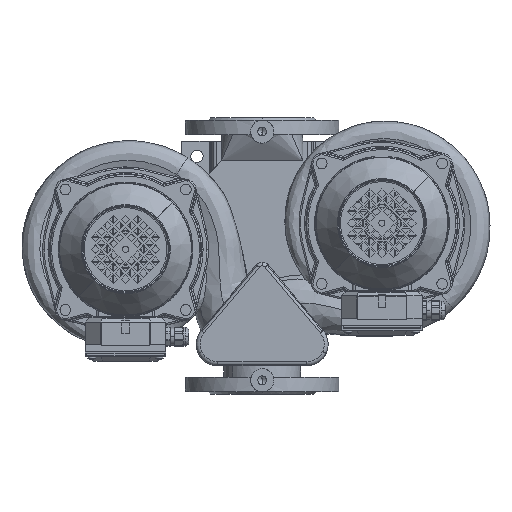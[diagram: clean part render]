
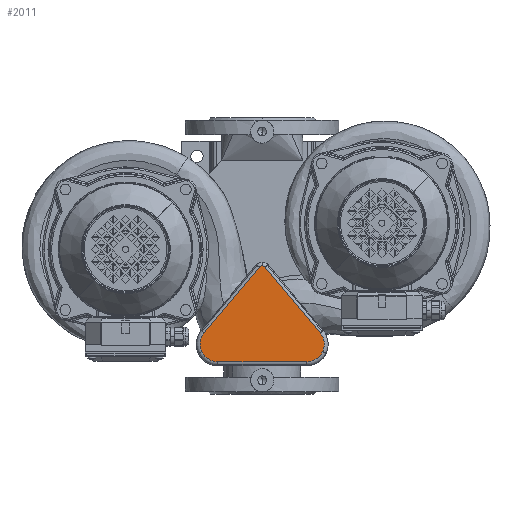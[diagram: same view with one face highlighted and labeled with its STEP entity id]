
A CAD part, top view. The second image highlights one B-rep face of the part: STEP entity #2011.
In plain terms, the highlighted planar face has unit normal (0, 0, 1).
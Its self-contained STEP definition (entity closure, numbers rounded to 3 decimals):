
#2011=ADVANCED_FACE('',(#3974),#3975,.T.);
#3974=FACE_OUTER_BOUND('',#8623,.T.);
#3975=PLANE('',#8624);
#8623=EDGE_LOOP('',(#19164,#19165,#19166,#19167,#19168,#19169,#19170,#19171,#19172));
#8624=AXIS2_PLACEMENT_3D('',#19173,#19174,#19175);
#19164=ORIENTED_EDGE('',*,*,#35521,.F.);
#19165=ORIENTED_EDGE('',*,*,#35515,.F.);
#19166=ORIENTED_EDGE('',*,*,#35529,.F.);
#19167=ORIENTED_EDGE('',*,*,#35511,.F.);
#19168=ORIENTED_EDGE('',*,*,#35505,.F.);
#19169=ORIENTED_EDGE('',*,*,#35535,.F.);
#19170=ORIENTED_EDGE('',*,*,#35501,.F.);
#19171=ORIENTED_EDGE('',*,*,#35495,.F.);
#19172=ORIENTED_EDGE('',*,*,#35540,.F.);
#19173=CARTESIAN_POINT('',(-57.895,143.0,50.0));
#19174=DIRECTION('',(0.0,0.0,1.0));
#19175=DIRECTION('',(1.0,0.0,0.0));
#35495=EDGE_CURVE('',#54474,#54477,#54478,.T.);
#35501=EDGE_CURVE('',#54477,#54487,#54488,.T.);
#35505=EDGE_CURVE('',#54491,#54494,#54495,.T.);
#35511=EDGE_CURVE('',#54494,#54504,#54505,.T.);
#35515=EDGE_CURVE('',#54508,#54511,#54512,.T.);
#35521=EDGE_CURVE('',#54511,#54521,#54522,.T.);
#35529=EDGE_CURVE('',#54504,#54508,#54532,.T.);
#35535=EDGE_CURVE('',#54487,#54491,#54539,.T.);
#35540=EDGE_CURVE('',#54521,#54474,#54544,.T.);
#54474=VERTEX_POINT('',#62109);
#54477=VERTEX_POINT('',#62112);
#54478=CIRCLE('',#62113,23.0);
#54487=VERTEX_POINT('',#62123);
#54488=LINE('',#62124,#62125);
#54491=VERTEX_POINT('',#62128);
#54494=VERTEX_POINT('',#62131);
#54495=CIRCLE('',#62132,5.0);
#54504=VERTEX_POINT('',#62142);
#54505=LINE('',#62143,#62144);
#54508=VERTEX_POINT('',#62147);
#54511=VERTEX_POINT('',#62150);
#54512=CIRCLE('',#62151,23.0);
#54521=VERTEX_POINT('',#62161);
#54522=LINE('',#62162,#62163);
#54532=CIRCLE('',#62174,23.0);
#54539=CIRCLE('',#62182,5.0);
#54544=CIRCLE('',#62188,23.0);
#62109=CARTESIAN_POINT('',(78.74,124.72,50.0));
#62112=CARTESIAN_POINT('',(75.514,100.216,50.0));
#62113=AXIS2_PLACEMENT_3D('',#74908,#74909,#74910);
#62123=CARTESIAN_POINT('',(3.83,14.786,50.0));
#62124=CARTESIAN_POINT('',(58.487,79.924,50.0));
#62125=VECTOR('',#74921,1.);
#62128=CARTESIAN_POINT('',(0.,13.0,50.0));
#62131=CARTESIAN_POINT('',(-3.83,14.786,50.0));
#62132=AXIS2_PLACEMENT_3D('',#74928,#74929,#74930);
#62142=CARTESIAN_POINT('',(-75.514,100.216,50.0));
#62143=CARTESIAN_POINT('',(-46.566,65.717,50.0));
#62144=VECTOR('',#74941,1.0);
#62147=CARTESIAN_POINT('',(-78.74,124.72,50.0));
#62150=CARTESIAN_POINT('',(-57.895,138.0,50.0));
#62151=AXIS2_PLACEMENT_3D('',#74948,#74949,#74950);
#62161=CARTESIAN_POINT('',(57.895,138.0,50.0));
#62162=CARTESIAN_POINT('',(-57.895,138.0,50.0));
#62163=VECTOR('',#74961,1.0);
#62174=AXIS2_PLACEMENT_3D('',#74975,#74976,#74977);
#62182=AXIS2_PLACEMENT_3D('',#74985,#74986,#74987);
#62188=AXIS2_PLACEMENT_3D('',#74992,#74993,#74994);
#74908=CARTESIAN_POINT('',(57.895,115.0,50.0));
#74909=DIRECTION('',(0.0,0.0,-1.0));
#74910=DIRECTION('',(0.906,0.423,0.0));
#74921=DIRECTION('',(-0.643,-0.766,0.0));
#74928=CARTESIAN_POINT('',(0.0,18.0,50.0));
#74929=DIRECTION('',(0.0,0.0,-1.0));
#74930=DIRECTION('',(0.,-1.0,0.0));
#74941=DIRECTION('',(-0.643,0.766,0.0));
#74948=CARTESIAN_POINT('',(-57.895,115.0,50.0));
#74949=DIRECTION('',(0.0,0.0,-1.0));
#74950=DIRECTION('',(-0.906,0.423,0.0));
#74961=DIRECTION('',(1.0,0.0,0.0));
#74975=CARTESIAN_POINT('',(-57.895,115.0,50.0));
#74976=DIRECTION('',(0.0,0.0,-1.0));
#74977=DIRECTION('',(-0.906,0.423,0.0));
#74985=CARTESIAN_POINT('',(0.0,18.0,50.0));
#74986=DIRECTION('',(0.0,0.0,-1.0));
#74987=DIRECTION('',(0.,-1.0,0.0));
#74992=CARTESIAN_POINT('',(57.895,115.0,50.0));
#74993=DIRECTION('',(0.0,0.0,-1.0));
#74994=DIRECTION('',(0.906,0.423,0.0));
